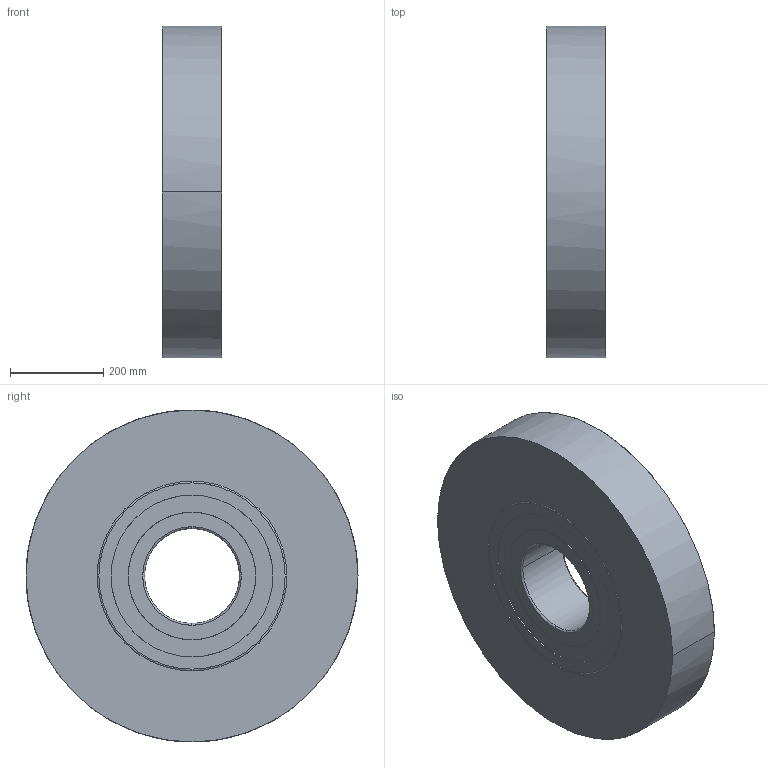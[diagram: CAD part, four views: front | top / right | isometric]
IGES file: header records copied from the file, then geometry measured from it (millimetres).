
Global section: native system: Kubotek KeyCreator; preprocessor: KCM Version 1.1.1442.0; author: KeyCreator User; organization: Self; date: 20170714.090936; units: inch
Bounding box: 127 x 711.2 x 711.2 mm (x, y, z)
Surface area: 1117772.5 mm2 (no closed solid volume)
Topology: 0 solids, 0 shells, 32 faces, 208 edges, 208 vertices
Faces by surface type: bspline 32
